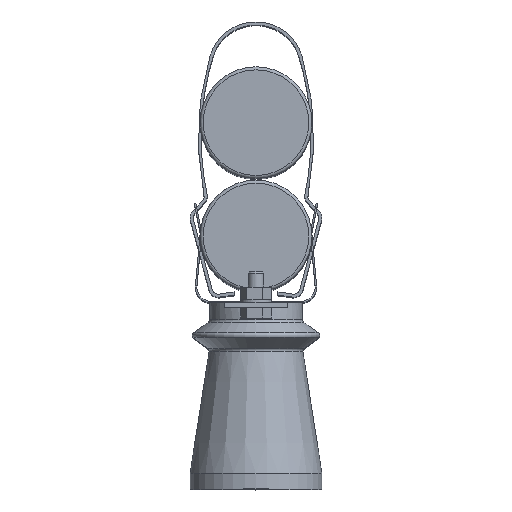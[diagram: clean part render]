
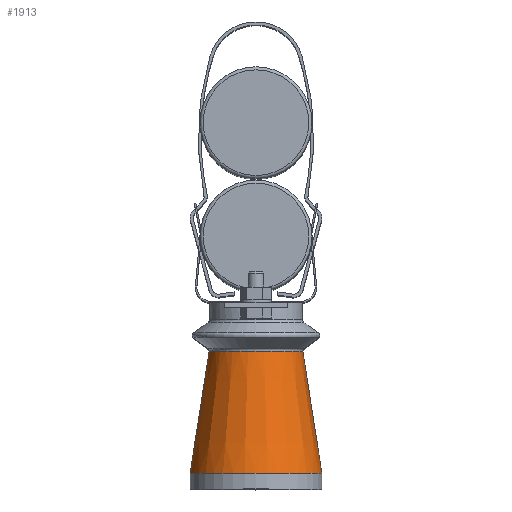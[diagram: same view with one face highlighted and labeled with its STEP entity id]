
A CAD part, top view. The second image highlights one B-rep face of the part: STEP entity #1913.
In plain terms, the highlighted conical face has half-angle 8.881 degrees and reference radius 30 mm.
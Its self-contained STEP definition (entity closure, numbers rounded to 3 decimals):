
#1230 = DIRECTION ( 'NONE',  ( 0., 1., 0. ) ) ;
#1307 = CARTESIAN_POINT ( 'NONE',  ( 0., 88.786, 142.5 ) ) ;
#1360 = EDGE_LOOP ( 'NONE', ( #5006 ) ) ;
#1753 = AXIS2_PLACEMENT_3D ( 'NONE', #1307, #5102, #1846 ) ;
#1846 = DIRECTION ( 'NONE',  ( -1., 0., 0. ) ) ;
#1913 = ADVANCED_FACE ( 'NONE', ( #3719, #2454 ), #6291, .T. ) ;
#1914 = AXIS2_PLACEMENT_3D ( 'NONE', #4925, #6022, #2222 ) ;
#2222 = DIRECTION ( 'NONE',  ( -1., 0., 0. ) ) ;
#2454 = FACE_BOUND ( 'NONE', #1360, .T. ) ;
#2779 = VERTEX_POINT ( 'NONE', #3601 ) ;
#2885 = EDGE_LOOP ( 'NONE', ( #4485 ) ) ;
#3601 = CARTESIAN_POINT ( 'NONE',  ( 42.476, 10.153, 142.5 ) ) ;
#3719 = FACE_OUTER_BOUND ( 'NONE', #2885, .T. ) ;
#3899 = CIRCLE ( 'NONE', #1753, 30.19 ) ;
#4164 = CARTESIAN_POINT ( 'NONE',  ( -30.19, 88.786, 142.5 ) ) ;
#4334 = AXIS2_PLACEMENT_3D ( 'NONE', #4479, #1230, #5027 ) ;
#4479 = CARTESIAN_POINT ( 'NONE',  ( 0., 10.153, 142.5 ) ) ;
#4485 = ORIENTED_EDGE ( 'NONE', *, *, #6202, .T. ) ;
#4925 = CARTESIAN_POINT ( 'NONE',  ( 0., 90., 142.5 ) ) ;
#5006 = ORIENTED_EDGE ( 'NONE', *, *, #6876, .T. ) ;
#5027 = DIRECTION ( 'NONE',  ( 1., 0., 0. ) ) ;
#5102 = DIRECTION ( 'NONE',  ( 0., -1., 0. ) ) ;
#6022 = DIRECTION ( 'NONE',  ( 0., -1., 0. ) ) ;
#6202 = EDGE_CURVE ( 'NONE', #2779, #2779, #6977, .T. ) ;
#6291 = CONICAL_SURFACE ( 'NONE', #1914, 30., 0.155 ) ;
#6876 = EDGE_CURVE ( 'NONE', #6974, #6974, #3899, .T. ) ;
#6974 = VERTEX_POINT ( 'NONE', #4164 ) ;
#6977 = CIRCLE ( 'NONE', #4334, 42.476 ) ;
